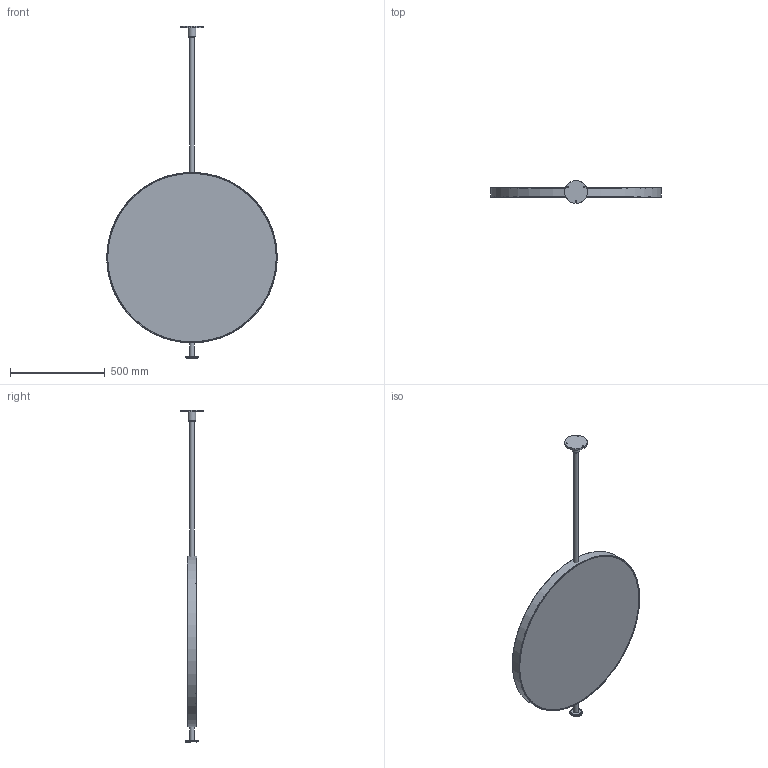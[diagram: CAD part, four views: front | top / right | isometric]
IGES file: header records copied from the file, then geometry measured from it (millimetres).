
Global section: file name: \\Archi-NAS\Comune\X GIOVANNI\SCHEDE PRODOTTO\SPECCHI\MIRR FRAME\MOMA DESIGN_SPECCHI_MIRR FRAME SIMPLE.igs; native system: Rhinoceros ( Jan 17 2018 ); preprocessor: Trout Lake IGES 012 Jan 17 2018; date: 230620.084102; units: millimetre
Bounding box: 900 x 120 x 1753.03 mm (x, y, z)
Surface area: 2991741.6 mm2 (no closed solid volume)
Topology: 0 solids, 0 shells, 40 faces, 253 edges, 234 vertices
Faces by surface type: bspline 40
